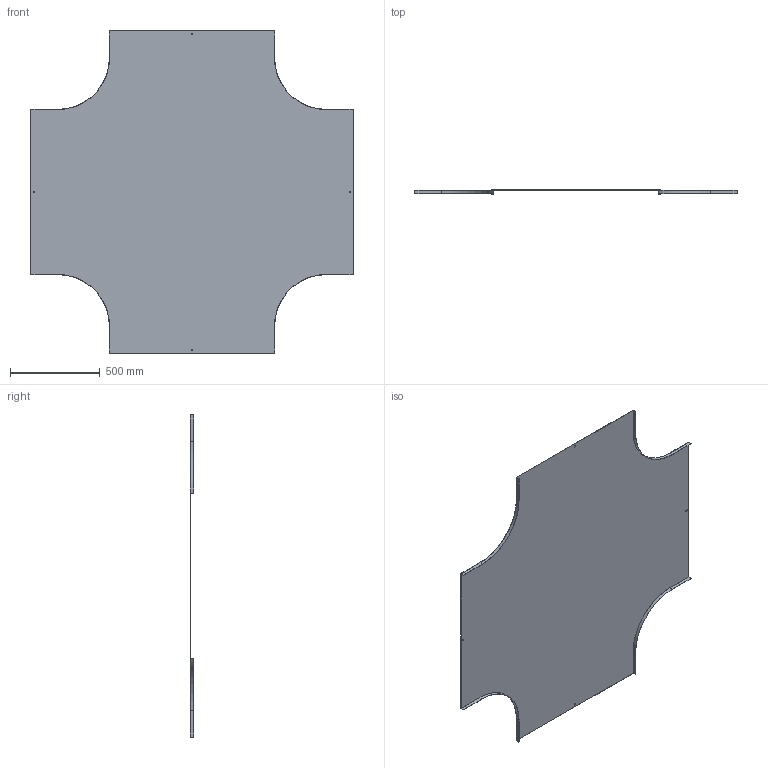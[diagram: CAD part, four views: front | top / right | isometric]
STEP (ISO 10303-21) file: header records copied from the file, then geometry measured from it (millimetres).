
FILE_DESCRIPTION (( 'STEP AP214' ), '1' );
FILE_NAME ('17N3P900.step', '2025-02-21T13:57:22', ( '' ), ( '' ), 'SwSTEP 2.0', 'SolidWorks 2023', '' );
FILE_SCHEMA (( 'AUTOMOTIVE_DESIGN' ));
Length unit declared in the file: millimetre
Products named in the file (1): 17N3P900
Bounding box: 1800 x 20 x 1800 mm (x, y, z)
Volume: 3896859.4 mm3; surface area: 5206277.6 mm2
Topology: 1 solids, 1 shells, 50 faces, 144 edges, 96 vertices
Faces by surface type: plane 42, cylinder 8
Entity records: 1663 total; most frequent: CARTESIAN_POINT 291, ORIENTED_EDGE 288, DIRECTION 262, EDGE_CURVE 144, LINE 128, VECTOR 128, VERTEX_POINT 96, AXIS2_PLACEMENT_3D 67
